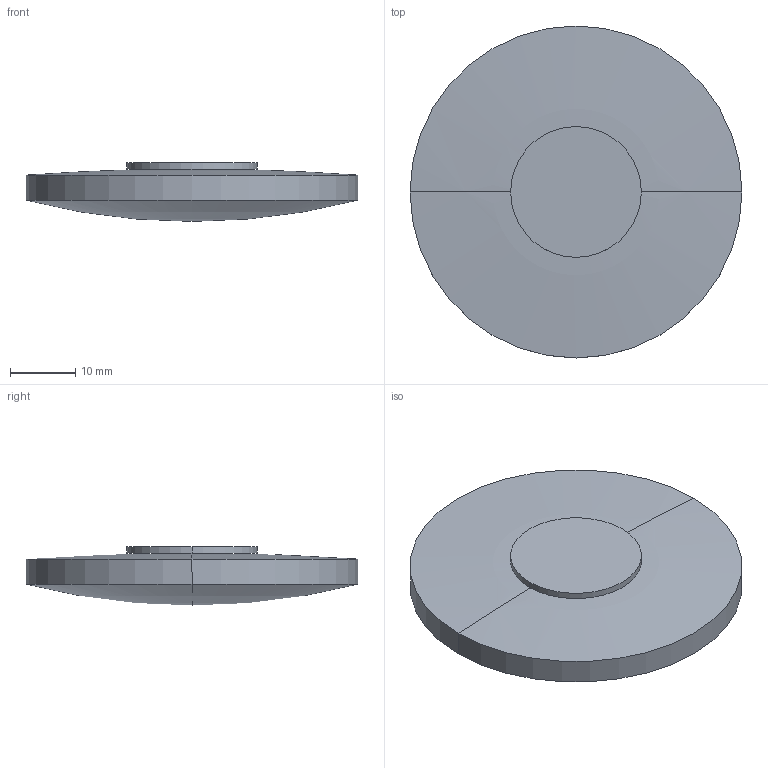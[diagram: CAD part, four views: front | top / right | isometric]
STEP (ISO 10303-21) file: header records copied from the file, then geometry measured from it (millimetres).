
FILE_DESCRIPTION(('STEP AP214'),'1');
FILE_NAME('LLR-51190.STEP','2020-03-09T17:42:03',(' '),(' '),'Spatial InterOp 3D',' ',' ');
FILE_SCHEMA(('AUTOMOTIVE_DESIGN { 1 0 10303 214 1 1 1 1 }'));
Length unit declared in the file: millimetre
Products named in the file (1): 1
Bounding box: 50.8 x 50.8 x 9 mm (x, y, z)
Volume: 12329.2 mm3; surface area: 5393.1 mm2
Topology: 2 solids, 2 shells, 10 faces, 20 edges, 10 vertices
Faces by surface type: sphere 4, cylinder 4, plane 2
Entity records: 255 total; most frequent: DIRECTION 52, CARTESIAN_POINT 38, ORIENTED_EDGE 32, AXIS2_PLACEMENT_3D 24, EDGE_CURVE 16, CIRCLE 12, ADVANCED_FACE 10, FACE_OUTER_BOUND 10
